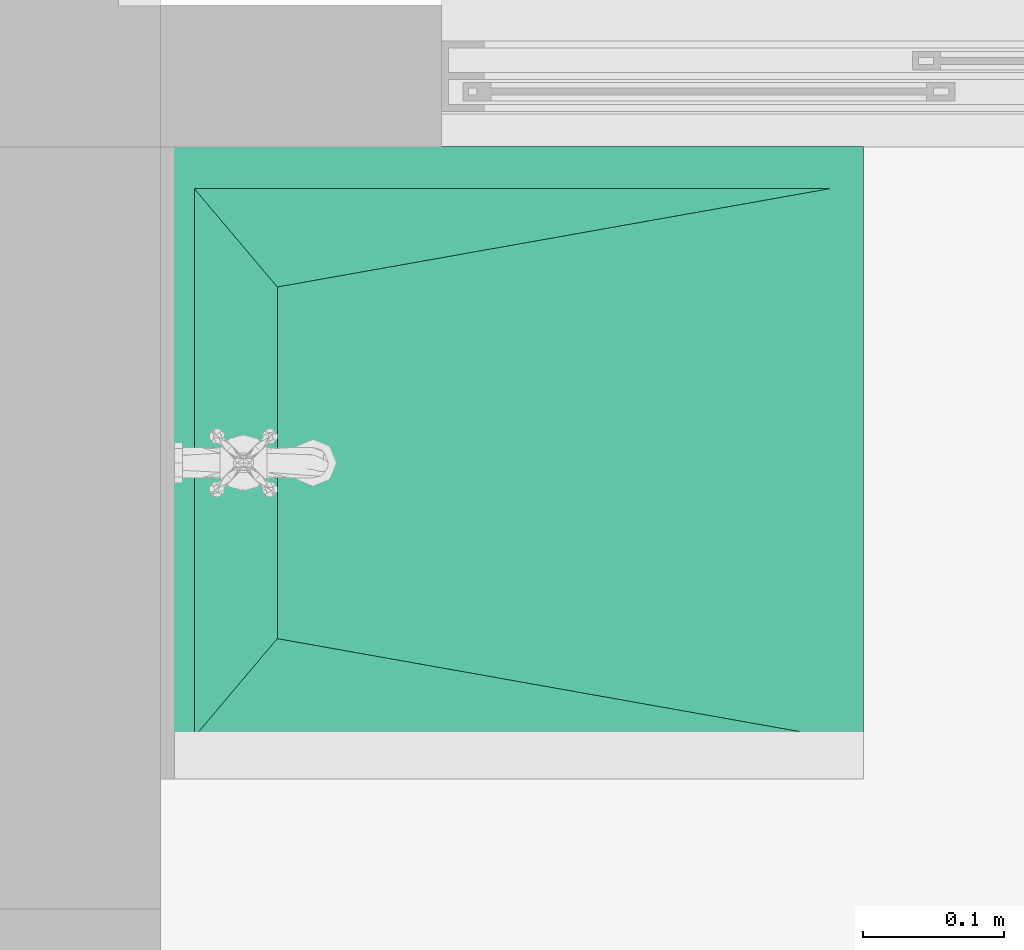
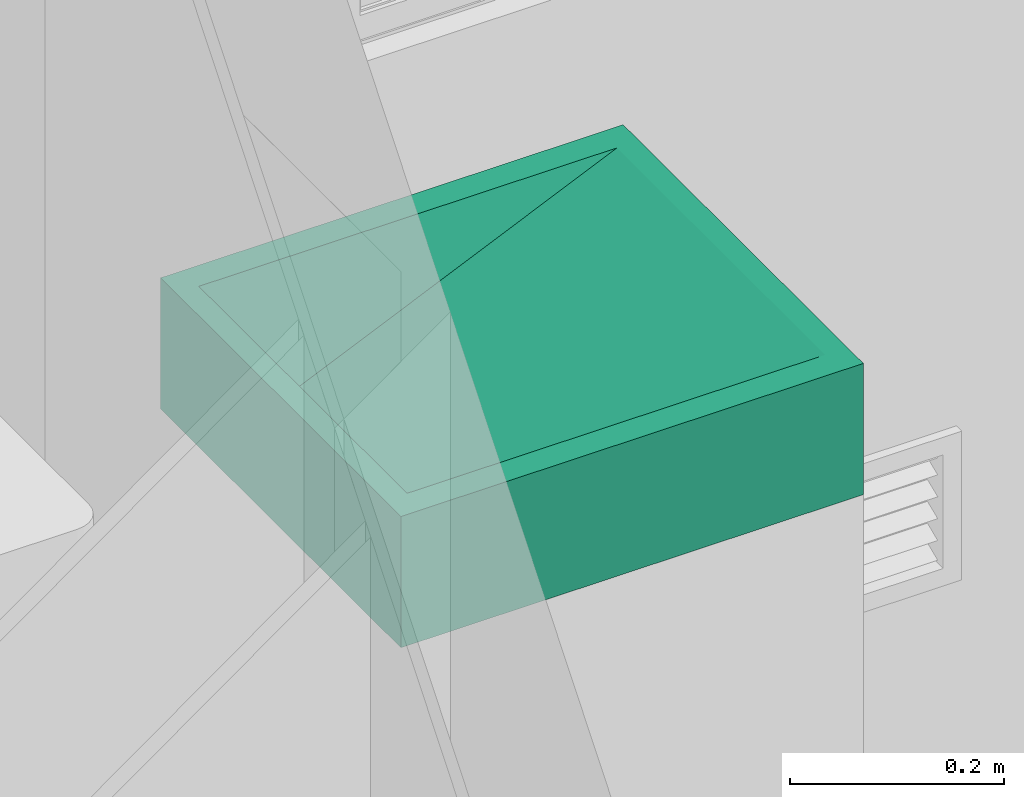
# One storey, part 38 of 48: 1 flow terminal.
"""IFC4 building model written with IfcOpenShell, lengths in metres."""

from ifc_helpers import new_model, entity, si_unit, converted_unit, derived_unit, direction, frame, origin, place, context, subcontext, project, spatial, polygons, source, transform, mapped, material, type_object, type_shapes, element, save


model = new_model("IFC4")

# Units and contexts
model_context = context("Model", 3, precision=1e-05, world=origin(), true_north=direction((6.123031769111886e-17, 1.0)))
body_context = subcontext(model_context, "Body", "Model", "MODEL_VIEW")
ifc_project = project(units=[si_unit("LENGTHUNIT", "METRE"), si_unit("AREAUNIT", "SQUARE_METRE"), si_unit("VOLUMEUNIT", "CUBIC_METRE"), converted_unit("PLANEANGLEUNIT", "DEGREE", entity("IfcRatioMeasure", 0.017453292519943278), si_unit("PLANEANGLEUNIT", "RADIAN"), dimensions=[0, 0, 0, 0, 0, 0, 0]), si_unit("MASSUNIT", "GRAM", prefix="KILO"), derived_unit("MASSDENSITYUNIT", [(si_unit("MASSUNIT", "GRAM", prefix="KILO"), 1), (si_unit("LENGTHUNIT", "METRE"), -3)]), derived_unit("IONCONCENTRATIONUNIT", [(si_unit("MASSUNIT", "GRAM", prefix="KILO"), 1), (si_unit("LENGTHUNIT", "METRE"), -3)]), derived_unit("MOMENTOFINERTIAUNIT", [(si_unit("LENGTHUNIT", "METRE"), 4)]), si_unit("TIMEUNIT", "SECOND"), si_unit("FREQUENCYUNIT", "HERTZ"), si_unit("THERMODYNAMICTEMPERATUREUNIT", "DEGREE_CELSIUS"), derived_unit("THERMALTRANSMITTANCEUNIT", [(si_unit("MASSUNIT", "GRAM", prefix="KILO"), 1), (si_unit("THERMODYNAMICTEMPERATUREUNIT", "KELVIN"), -1), (si_unit("TIMEUNIT", "SECOND"), -3)]), derived_unit("THERMALCONDUCTANCEUNIT", [(si_unit("MASSUNIT", "GRAM", prefix="KILO"), 1), (si_unit("THERMODYNAMICTEMPERATUREUNIT", "KELVIN"), -1), (si_unit("TIMEUNIT", "SECOND"), -3), (si_unit("LENGTHUNIT", "METRE"), 1)]), derived_unit("VOLUMETRICFLOWRATEUNIT", [(si_unit("LENGTHUNIT", "METRE"), 3), (si_unit("TIMEUNIT", "SECOND"), -1)]), derived_unit("MASSFLOWRATEUNIT", [(si_unit("MASSUNIT", "GRAM", prefix="KILO"), 1), (si_unit("TIMEUNIT", "SECOND"), -1)]), derived_unit("ROTATIONALFREQUENCYUNIT", [(si_unit("TIMEUNIT", "SECOND"), -1)]), si_unit("ELECTRICCURRENTUNIT", "AMPERE"), si_unit("ELECTRICVOLTAGEUNIT", "VOLT"), si_unit("POWERUNIT", "WATT"), si_unit("FORCEUNIT", "NEWTON", prefix="KILO"), si_unit("ILLUMINANCEUNIT", "LUX"), si_unit("LUMINOUSFLUXUNIT", "LUMEN"), si_unit("LUMINOUSINTENSITYUNIT", "CANDELA"), derived_unit("USERDEFINED", [(si_unit("MASSUNIT", "GRAM", prefix="KILO"), -1), (si_unit("LENGTHUNIT", "METRE"), -2), (si_unit("TIMEUNIT", "SECOND"), 3), (si_unit("LUMINOUSFLUXUNIT", "LUMEN"), 1)]), derived_unit("USERDEFINED", [(si_unit("MASSUNIT", "GRAM", prefix="KILO"), 1), (si_unit("TIMEUNIT", "SECOND"), -3), (si_unit("LENGTHUNIT", "METRE"), 3), (si_unit("ELECTRICCURRENTUNIT", "AMPERE"), -2)]), derived_unit("SOUNDPOWERUNIT", [(si_unit("MASSUNIT", "GRAM", prefix="KILO"), 1), (si_unit("TIMEUNIT", "SECOND"), -3), (si_unit("LENGTHUNIT", "METRE"), 2)]), derived_unit("SOUNDPRESSUREUNIT", [(si_unit("MASSUNIT", "GRAM", prefix="KILO"), 1), (si_unit("LENGTHUNIT", "METRE"), -1), (si_unit("TIMEUNIT", "SECOND"), -2)]), derived_unit("LINEARVELOCITYUNIT", [(si_unit("LENGTHUNIT", "METRE"), 1), (si_unit("TIMEUNIT", "SECOND"), -1)]), si_unit("PRESSUREUNIT", "PASCAL"), derived_unit("USERDEFINED", [(si_unit("MASSUNIT", "GRAM", prefix="KILO"), 1), (si_unit("LENGTHUNIT", "METRE"), -2), (si_unit("TIMEUNIT", "SECOND"), -2)]), derived_unit("LINEARFORCEUNIT", [(si_unit("MASSUNIT", "GRAM", prefix="KILO"), 1), (si_unit("TIMEUNIT", "SECOND"), -2)]), derived_unit("PLANARFORCEUNIT", [(si_unit("MASSUNIT", "GRAM", prefix="KILO"), 1), (si_unit("LENGTHUNIT", "METRE"), -1), (si_unit("TIMEUNIT", "SECOND"), -2)]), derived_unit("SPECIFICHEATCAPACITYUNIT", [(si_unit("THERMODYNAMICTEMPERATUREUNIT", "KELVIN"), -1), (si_unit("LENGTHUNIT", "METRE"), 2), (si_unit("TIMEUNIT", "SECOND"), -2)]), derived_unit("HEATINGVALUEUNIT", [(si_unit("LENGTHUNIT", "METRE"), 2), (si_unit("TIMEUNIT", "SECOND"), -2)]), derived_unit("VAPORPERMEABILITYUNIT", [(si_unit("LENGTHUNIT", "METRE"), -1), (si_unit("TIMEUNIT", "SECOND"), 1)]), derived_unit("DYNAMICVISCOSITYUNIT", [(si_unit("MASSUNIT", "GRAM", prefix="KILO"), 1), (si_unit("TIMEUNIT", "SECOND"), -1), (si_unit("LENGTHUNIT", "METRE"), -1)]), derived_unit("THERMALEXPANSIONCOEFFICIENTUNIT", [(si_unit("THERMODYNAMICTEMPERATUREUNIT", "KELVIN"), -1)]), derived_unit("MODULUSOFELASTICITYUNIT", [(si_unit("MASSUNIT", "GRAM", prefix="KILO"), 1), (si_unit("LENGTHUNIT", "METRE"), -1), (si_unit("TIMEUNIT", "SECOND"), -2)]), derived_unit("ISOTHERMALMOISTURECAPACITYUNIT", [(si_unit("LENGTHUNIT", "METRE"), 3), (si_unit("MASSUNIT", "GRAM", prefix="KILO"), -1)]), derived_unit("MOISTUREDIFFUSIVITYUNIT", [(si_unit("TIMEUNIT", "SECOND"), -1), (si_unit("LENGTHUNIT", "METRE"), 2)])], contexts=[model_context])

# Site, building, storey, space
site_placement = place(None, origin())
site = spatial("IfcSite", under=ifc_project, at=site_placement, Name="Default", CompositionType="ELEMENT")
building_placement = place(site_placement, origin())
building = spatial("IfcBuilding", under=site, at=building_placement, CompositionType="ELEMENT")
storey_placement = place(building_placement, frame((0.0, 0.0, 9.40000000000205)))
storey = spatial("IfcBuildingStorey", under=building, at=storey_placement, Name="Nivel 5", CompositionType="ELEMENT", Elevation=9.40000000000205)
space_placement = place(storey_placement, origin())
space = spatial("IfcSpace", under=storey, at=space_placement, Name="270", CompositionType="ELEMENT", PredefinedType="SPACE")

# Flow terminal
ifc_material = material(Name="Lavadero", Category="Materials")
distribution_element_type = type_object("IfcDistributionElementType", Name="D2010 - Lavadero - Granito:D2010 - Lavadero - Concreto", material=ifc_material)
shared_shape = source(origin(), body_context, "Body", "Tessellation", [
    polygons([(0.03000000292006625, 0.023999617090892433, 0.15000000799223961), (0.09992663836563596, 0.41697036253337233, 0.05000015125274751), (0.02999997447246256, 0.47600003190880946, 0.15000000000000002), (0.3500731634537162, 0.41697028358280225, 0.050000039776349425), (0.4199999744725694, 0.47600003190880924, 0.15000000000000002), (0.4199999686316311, 0.023999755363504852, 0.15000001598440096), (0.4499999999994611, -3.383959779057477e-17, 0.0), (0.4499999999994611, 0.5000004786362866, 0.0), (0.4499999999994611, 0.5000004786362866, 0.15000000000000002), (0.4499999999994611, -3.383959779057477e-17, 0.15000000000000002), (6.767919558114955e-17, 3.383959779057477e-17, 0.15000000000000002), (6.767919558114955e-17, 3.383959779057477e-17, 0.0), (6.767919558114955e-17, 0.5000004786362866, 0.15000000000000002), (6.767919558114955e-17, 0.5000004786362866, 0.0), (0.4199999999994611, 0.019999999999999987, 0.0), (0.4199999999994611, 0.4800004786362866, 0.0), (0.030000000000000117, 0.4800004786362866, 0.0), (0.030000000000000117, 0.019999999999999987, 0.0), (0.4199999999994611, 0.019999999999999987, 0.034883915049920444), (0.4199999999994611, 0.4800004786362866, 0.034883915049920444), (0.030000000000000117, 0.019999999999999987, 0.034883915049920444), (0.030000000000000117, 0.4800004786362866, 0.034883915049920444)], [[[1, 2, 3]], [[3, 2, 4, 5]], [[5, 4, 6]], [[2, 1, 6, 4]], [[7, 8, 9, 10]], [[7, 10, 11, 12]], [[12, 11, 13, 14]], [[9, 8, 14, 13]], [[8, 7, 12, 14], [15, 16, 17, 18]], [[10, 9, 13, 11], [1, 3, 5, 6]], [[19, 20, 16, 15]], [[21, 19, 15, 18]], [[22, 21, 18, 17]], [[20, 22, 17, 16]], [[20, 19, 21, 22]]], closed=True),
])
type_shapes(distribution_element_type, [shared_shape])
flow_terminal_placement = place(space_placement, frame((4.587500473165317, -8.175000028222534, 0.7799999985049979), z_axis=(0.0, 0.0, 1.0), x_axis=(0.0, 1.0, 0.0)))
element("IfcFlowTerminal", 1, at=flow_terminal_placement, inside=space, type_object=distribution_element_type, material=ifc_material, Name="D2010 - Lavadero - Granito:D2010 - Lavadero - Concreto", ObjectType="D2010 - Lavadero - Granito:D2010 - Lavadero - Concreto", context=body_context, shape_type="MappedRepresentation", body=[
    mapped(shared_shape, transform((0.0, 0.0, 0.0), scale=1.0)),
])

save(model, "model.ifc")
